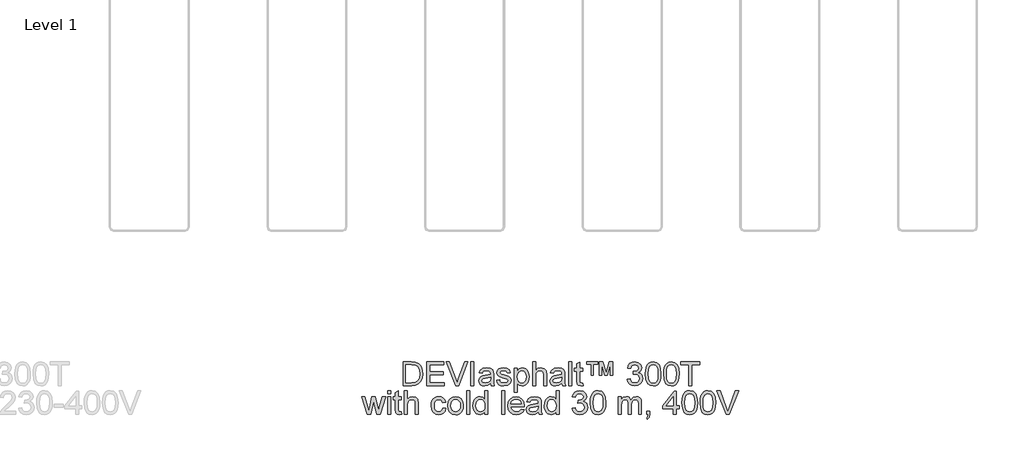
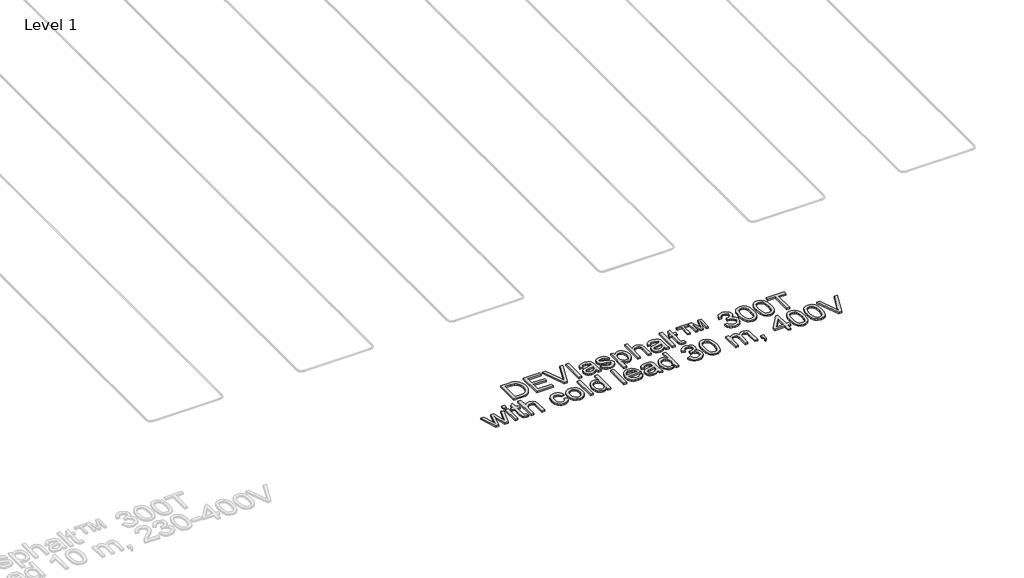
# One storey, part 19 of 26: 1 proxy.
"""IFC4 building model written with IfcOpenShell, lengths in millimetres."""

from ifc_helpers import new_model, si_unit, origin, origin_with_axes, place, context, project, spatial, polyline, outline, extrude, element, save

model = new_model("IFC4")

# Units and contexts
model_context = context("Model", 3, world=origin())
ifc_project = project(units=[si_unit("LENGTHUNIT", "METRE", prefix="MILLI")], contexts=[model_context])

# Site, building, storey
site = spatial("IfcSite", under=ifc_project)
building = spatial("IfcBuilding", under=site)
storey = spatial("IfcBuildingStorey", under=building, Name="Level 1", Elevation=0.0)

# Proxy
placement = place(None, origin())
element("IfcBuildingElementProxy", 1, Name="150mm", ObjectType="150mm", at=placement, inside=storey, context=model_context, shape_type="SweptSolid", body=[
    extrude(outline(polyline([(21271.9779866, -27720.7202), (21271.9779866, -27570.0357347), (21323.9597125, -27570.0357347), (21350.8518863, -27572.2062385), (21372.9983824, -27582.985181), (21383.4186399, -27594.4630992), (21390.8406592, -27608.7369206), (21395.2828343, -27625.5307337), (21396.7635593, -27644.568627), (21392.7536456, -27674.9740739), (21382.4529497, -27696.9182349), (21368.6941631, -27710.585051), (21350.6863394, -27718.145026), (21326.46131, -27720.7202), (21271.9779866, -27720.7202)]), holes=[polyline([(21290.8135447, -27701.8846418), (21324.1436535, -27701.8846418), (21348.387077, -27699.162315), (21362.3665928, -27691.4735813), (21373.8261169, -27672.7667819), (21377.9280012, -27644.2743214), (21375.9184458, -27623.746506), (21369.8897796, -27608.5897678), (21360.9824368, -27598.1787074), (21350.3368515, -27591.8879252), (21323.6286187, -27588.8712929), (21290.8135447, -27588.8712929), (21290.8135447, -27701.8846418)])]), origin_with_axes(), (0.0, 0.0, 1.0), 10.0),
    extrude(outline(polyline([(21422.6624518, -27720.7202), (21422.6624518, -27570.0357347), (21530.9669112, -27570.0357347), (21530.9669112, -27588.8712929), (21441.4980099, -27588.8712929), (21441.4980099, -27633.6057435), (21526.2580216, -27633.6057435), (21526.2580216, -27652.4413017), (21441.4980099, -27652.4413017), (21441.4980099, -27701.8846418), (21533.3213559, -27701.8846418), (21533.3213559, -27720.7202), (21422.6624518, -27720.7202)])), origin_with_axes(), (0.0, 0.0, 1.0), 10.0),
    extrude(outline(polyline([(21606.0884146, -27720.7202), (21546.1236494, -27570.0357347), (21566.2835827, -27570.0357347), (21606.4195084, -27678.5977115), (21614.5497005, -27703.0618642), (21622.569528, -27678.5977115), (21662.8158182, -27570.0357347), (21682.9757516, -27570.0357347), (21625.5493721, -27720.7202), (21606.0884146, -27720.7202)])), origin_with_axes(), (0.0, 0.0, 1.0), 10.0),
    extrude(outline(polyline([(21702.8413793, -27720.7202), (21702.8413793, -27570.0357347), (21721.6769375, -27570.0357347), (21721.6769375, -27720.7202), (21702.8413793, -27720.7202)])), origin_with_axes(), (0.0, 0.0, 1.0), 10.0),
    extrude(outline(polyline([(21827.6269521, -27706.5935313), (21809.361611, -27719.3590366), (21789.1832836, -27723.0746447), (21773.4425327, -27720.8397616), (21761.8312572, -27714.1351122), (21754.6713539, -27703.953978), (21752.2847195, -27691.2896403), (21755.889963, -27676.3904195), (21765.3629244, -27665.5746889), (21778.5514939, -27659.3942714), (21794.8486663, -27656.56158), (21827.5165875, -27650.0868569), (21827.6269521, -27645.8930021), (21826.330168, -27637.4868985), (21822.4398159, -27631.9870627), (21813.7394068, -27627.9035726), (21801.617695, -27626.5424092), (21782.5614077, -27630.1660468), (21773.4747224, -27643.0235226), (21754.6391642, -27640.6690778), (21762.7877504, -27622.274978), (21779.1952874, -27611.4960356), (21804.0457162, -27607.706851), (21826.872794, -27611.0545772), (21839.7670579, -27619.4606808), (21845.5428052, -27632.2445801), (21846.4625102, -27648.7256935), (21846.4625102, -27672.1597766), (21847.4190034, -27704.8828801), (21851.1713998, -27720.7202), (21832.3358416, -27720.7202), (21827.6269521, -27706.5935313)]), holes=[polyline([(21827.6269521, -27668.922415), (21797.2398993, -27674.6981624), (21781.0346974, -27677.7515829), (21773.6954516, -27682.7179899), (21771.1202776, -27689.9652652), (21776.730478, -27700.1555964), (21793.1931973, -27704.2390866), (21812.2494847, -27699.7325321), (21824.5367433, -27688.824831), (21827.5165875, -27674.256704), (21827.6269521, -27668.922415)])]), origin_with_axes(), (0.0, 0.0, 1.0), 10.0),
    extrude(outline(polyline([(21865.2980684, -27687.7579732), (21884.1336265, -27685.4035284), (21887.1042736, -27693.4601441), (21892.8524298, -27699.3830442), (21912.8284222, -27704.2390866), (21932.0318623, -27699.7877144), (21938.2858562, -27689.3398658), (21936.7131607, -27684.5390057), (21931.9950741, -27680.8785799), (21912.607693, -27675.5075028), (21884.2439911, -27666.2920588), (21871.864762, -27655.5315104), (21867.6525131, -27640.337984), (21871.0370275, -27626.3032859), (21880.2708656, -27615.5795257), (21892.2454245, -27610.0061135), (21908.4506264, -27607.706851), (21931.3696747, -27611.4040651), (21945.9378017, -27621.4104554), (21952.4125248, -27638.314633), (21933.5769667, -27640.6690778), (21926.4952383, -27630.2764114), (21909.9221544, -27626.5424092), (21891.8959366, -27630.1108645), (21886.4880713, -27638.4249976), (21888.7321515, -27643.9064394), (21895.7586976, -27648.0635059), (21911.9822936, -27652.0734197), (21939.6286255, -27660.9393757), (21952.4677071, -27670.9825542), (21957.1214144, -27687.353303), (21951.6583667, -27705.3795208), (21935.8946233, -27718.4577257), (21912.5709048, -27723.0746447), (21893.5789968, -27720.8489587), (21879.7190426, -27714.1719004), (21870.4668104, -27703.1170465), (21865.2980684, -27687.7579732)])), origin_with_axes(), (0.0, 0.0, 1.0), 10.0),
    extrude(outline(polyline([(21978.3114173, -27763.1002058), (21978.3114173, -27610.0612958), (21997.1469755, -27610.0612958), (21997.1469755, -27628.528972), (22010.1699981, -27612.9123813), (22027.7547575, -27607.706851), (22040.4926715, -27609.5278669), (22051.6302989, -27614.9909145), (22060.6985901, -27623.7649001), (22067.2284955, -27635.5187299), (22072.4892081, -27664.5446193), (22071.0038845, -27680.6532522), (22066.5479138, -27695.0604308), (22059.2638503, -27707.0349897), (22049.2942483, -27715.8457635), (22037.6829728, -27721.2674244), (22025.4738891, -27723.0746447), (22009.0847462, -27718.2369965), (21997.1469755, -27706.0049202), (21997.1469755, -27763.1002058), (21978.3114173, -27763.1002058)]), holes=[polyline([(21997.1469755, -27666.2736647), (21999.184122, -27683.1594483), (22005.2955616, -27694.9684603), (22014.3132691, -27701.92143), (22025.0692189, -27704.2390866), (22035.9999127, -27701.8386566), (22045.2475463, -27694.6373665), (22051.552124, -27682.3960931), (22053.6536499, -27664.8757131), (22051.6027078, -27648.0819), (22045.4498814, -27636.1073411), (22036.4459696, -27628.9336422), (22025.8417711, -27626.5424092), (22015.1961858, -27629.0853935), (22005.8473846, -27636.7143464), (21999.3220777, -27649.1901445), (21997.1469755, -27666.2736647)])]), origin_with_axes(), (0.0, 0.0, 1.0), 10.0),
    extrude(outline(polyline([(22093.679211, -27720.7202), (22093.679211, -27570.0357347), (22112.5147691, -27570.0357347), (22112.5147691, -27625.4387632), (22127.2024578, -27612.1398291), (22145.2930549, -27607.706851), (22166.4462696, -27612.5444993), (22179.2853513, -27625.9170098), (22183.1481122, -27650.6754681), (22183.1481122, -27720.7202), (22164.3125541, -27720.7202), (22164.3125541, -27652.6252427), (22162.8134349, -27640.8346247), (22158.3160775, -27632.7596149), (22151.0688022, -27628.0967106), (22141.3199294, -27626.5424092), (22125.8872797, -27630.7362639), (22115.5865838, -27642.1038176), (22112.5147691, -27661.9326571), (22112.5147691, -27720.7202), (22093.679211, -27720.7202)])), origin_with_axes(), (0.0, 0.0, 1.0), 10.0),
    extrude(outline(polyline([(22279.6803477, -27706.5935313), (22261.4150067, -27719.3590366), (22241.2366793, -27723.0746447), (22225.4959284, -27720.8397616), (22213.8846529, -27714.1351122), (22206.7247496, -27703.953978), (22204.3381151, -27691.2896403), (22207.9433587, -27676.3904195), (22217.4163201, -27665.5746889), (22230.6048896, -27659.3942714), (22246.902062, -27656.56158), (22279.5699831, -27650.0868569), (22279.6803477, -27645.8930021), (22278.3835637, -27637.4868985), (22274.4932116, -27631.9870627), (22265.7928024, -27627.9035726), (22253.6710907, -27626.5424092), (22234.6148033, -27630.1660468), (22225.5281181, -27643.0235226), (22206.6925599, -27640.6690778), (22214.8411461, -27622.274978), (22231.2486831, -27611.4960356), (22256.0991119, -27607.706851), (22278.9261897, -27611.0545772), (22291.8204536, -27619.4606808), (22297.5962009, -27632.2445801), (22298.5159059, -27648.7256935), (22298.5159059, -27672.1597766), (22299.4723991, -27704.8828801), (22303.2247954, -27720.7202), (22284.3892373, -27720.7202), (22279.6803477, -27706.5935313)]), holes=[polyline([(22279.6803477, -27668.922415), (22249.2932949, -27674.6981624), (22233.0880931, -27677.7515829), (22225.7488473, -27682.7179899), (22223.1736733, -27689.9652652), (22228.7838737, -27700.1555964), (22245.246593, -27704.2390866), (22264.3028803, -27699.7325321), (22276.590139, -27688.824831), (22279.5699831, -27674.256704), (22279.6803477, -27668.922415)])]), origin_with_axes(), (0.0, 0.0, 1.0), 10.0),
    extrude(outline(polyline([(22324.4147984, -27720.7202), (22324.4147984, -27570.0357347), (22343.2503565, -27570.0357347), (22343.2503565, -27720.7202), (22324.4147984, -27720.7202)])), origin_with_axes(), (0.0, 0.0, 1.0), 10.0),
    extrude(outline(polyline([(22411.5292548, -27705.0116388), (22413.8836996, -27721.272023), (22399.7938192, -27723.0746447), (22384.0116816, -27719.9476478), (22376.1390069, -27711.7438793), (22373.8581385, -27690.3699354), (22373.8581385, -27628.896854), (22359.7314699, -27628.896854), (22359.7314699, -27610.0612958), (22373.8581385, -27610.0612958), (22373.8581385, -27583.169122), (22392.6936967, -27572.0958739), (22392.6936967, -27610.0612958), (22411.5292548, -27610.0612958), (22411.5292548, -27628.896854), (22392.6936967, -27628.896854), (22392.6936967, -27689.8181124), (22393.6869781, -27699.530197), (22396.9059455, -27702.9698937), (22403.3254863, -27704.2390866), (22411.5292548, -27705.0116388)])), origin_with_axes(), (0.0, 0.0, 1.0), 10.0),
    extrude(outline(polyline([(22465.6814845, -27654.7957464), (22465.6814845, -27584.1624033), (22437.4281473, -27584.1624033), (22437.4281473, -27570.0357347), (22508.0614904, -27570.0357347), (22508.0614904, -27584.1624033), (22479.8081531, -27584.1624033), (22479.8081531, -27654.7957464), (22465.6814845, -27654.7957464)])), origin_with_axes(), (0.0, 0.0, 1.0), 10.0),
    extrude(outline(polyline([(22517.4792694, -27654.7957464), (22517.4792694, -27570.0357347), (22538.3749668, -27570.0357347), (22559.9328517, -27638.0939038), (22581.2332192, -27570.0357347), (22602.2392811, -27570.0357347), (22602.2392811, -27654.7957464), (22588.1126125, -27654.7957464), (22588.1126125, -27585.1924729), (22566.9226096, -27654.7957464), (22552.795941, -27654.7957464), (22531.605938, -27584.1624033), (22531.605938, -27654.7957464), (22517.4792694, -27654.7957464)])), origin_with_axes(), (0.0, 0.0, 1.0), 10.0),
    extrude(outline(polyline([(22694.0626271, -27680.6946389), (22712.8981853, -27678.3401941), (22717.1150326, -27690.1767973), (22723.2908516, -27698.1690337), (22731.7291449, -27702.7215733), (22742.7334151, -27704.2390866), (22755.6460731, -27702.1513563), (22765.6156752, -27695.8881653), (22771.9892307, -27686.5439626), (22774.1137493, -27675.2131972), (22772.0076248, -27664.4572473), (22765.6892516, -27655.7338455), (22756.1243197, -27649.9534997), (22744.2785195, -27648.0267177), (22731.0715558, -27650.0868569), (22733.1684832, -27631.2512987), (22736.1851156, -27631.4720279), (22757.5590595, -27626.0641626), (22764.6775761, -27619.2031634), (22767.050415, -27609.4358964), (22765.3305666, -27601.3011058), (22760.1710216, -27594.7022225), (22752.298347, -27590.3290253), (22742.4391095, -27588.8712929), (22732.5614779, -27590.3428209), (22724.4864681, -27594.7574048), (22718.5911591, -27602.1150447), (22715.25263, -27612.4157406), (22696.4170719, -27610.0612958), (22701.962893, -27593.1479211), (22711.8313275, -27580.5203716), (22725.3325967, -27572.6568939), (22741.7769219, -27570.0357347), (22764.4936351, -27575.2044768), (22780.3861373, -27589.3311454), (22785.8859731, -27608.3322504), (22780.6620488, -27625.6962806), (22765.211005, -27638.1674802), (22777.0016229, -27642.9315521), (22785.7388203, -27651.0433501), (22791.1466856, -27662.0614158), (22792.9493074, -27675.544291), (22789.3440639, -27693.9016025), (22778.5283332, -27709.2422817), (22762.2035697, -27719.616554), (22742.0712275, -27723.0746447), (22723.8610687, -27720.1223917), (22709.0354243, -27711.2656327), (22698.7255314, -27697.7183782), (22694.0626271, -27680.6946389)])), origin_with_axes(), (0.0, 0.0, 1.0), 10.0),
    extrude(outline(polyline([(22809.4304208, -27646.5919779), (22810.8145768, -27622.4727146), (22814.9670448, -27603.2370848), (22821.8464381, -27588.5907829), (22831.41137, -27578.2395032), (22843.7308183, -27572.0866769), (22858.873761, -27570.0357347), (22880.8731043, -27574.8917771), (22896.0666307, -27588.889687), (22904.8957986, -27611.1833359), (22908.3171011, -27646.5919779), (22906.9467407, -27670.5732855), (22902.8356594, -27689.7629301), (22895.9976528, -27704.4230276), (22886.4465165, -27714.8156939), (22874.099477, -27721.009907), (22858.873761, -27723.0746447), (22839.3024388, -27719.4877953), (22824.4400062, -27708.7272469), (22813.1828172, -27683.2422217), (22809.4304208, -27646.5919779)]), holes=[polyline([(22828.265979, -27646.5551897), (22830.4732709, -27676.1834859), (22837.0951468, -27693.3313854), (22846.9543843, -27701.5121613), (22858.873761, -27704.2390866), (22870.7931376, -27701.5029642), (22880.6523751, -27693.2945972), (22887.274251, -27676.1375007), (22889.481543, -27646.5551897), (22887.3478274, -27617.5936797), (22880.9466807, -27600.3124229), (22871.1058373, -27591.7315754), (22858.6530318, -27588.8712929), (22846.8624138, -27591.3912846), (22837.3894524, -27598.9512596), (22830.5468473, -27617.3085711), (22828.265979, -27646.5551897)])]), origin_with_axes(), (0.0, 0.0, 1.0), 10.0),
    extrude(outline(polyline([(22924.7982145, -27646.5919779), (22926.1823705, -27622.4727146), (22930.3348385, -27603.2370848), (22937.2142318, -27588.5907829), (22946.7791637, -27578.2395032), (22959.098612, -27572.0866769), (22974.2415546, -27570.0357347), (22996.240898, -27574.8917771), (23011.4344244, -27588.889687), (23020.2635922, -27611.1833359), (23023.6848948, -27646.5919779), (23022.3145344, -27670.5732855), (23018.2034531, -27689.7629301), (23011.3654465, -27704.4230276), (23001.8143102, -27714.8156939), (22989.4672707, -27721.009907), (22974.2415546, -27723.0746447), (22954.6702325, -27719.4877953), (22939.8077999, -27708.7272469), (22928.5506108, -27683.2422217), (22924.7982145, -27646.5919779)]), holes=[polyline([(22943.6337726, -27646.5551897), (22945.8410646, -27676.1834859), (22952.4629405, -27693.3313854), (22962.322178, -27701.5121613), (22974.2415546, -27704.2390866), (22986.1609313, -27701.5029642), (22996.0201688, -27693.2945972), (23002.6420447, -27676.1375007), (23004.8493366, -27646.5551897), (23002.7156211, -27617.5936797), (22996.3144744, -27600.3124229), (22986.473631, -27591.7315754), (22974.0208254, -27588.8712929), (22962.2302075, -27591.3912846), (22952.7572461, -27598.9512596), (22945.914641, -27617.3085711), (22943.6337726, -27646.5551897)])]), origin_with_axes(), (0.0, 0.0, 1.0), 10.0),
    extrude(outline(polyline([(23084.9004588, -27720.7202), (23084.9004588, -27588.8712929), (23035.4571186, -27588.8712929), (23035.4571186, -27570.0357347), (23153.1793571, -27570.0357347), (23153.1793571, -27588.8712929), (23103.7360169, -27588.8712929), (23103.7360169, -27720.7202), (23084.9004588, -27720.7202)])), origin_with_axes(), (0.0, 0.0, 1.0), 10.0),
    extrude(outline(polyline([(21044.2958197, -27903.6824267), (21010.6346172, -27793.0235226), (21030.2059393, -27793.0235226), (21049.2990149, -27857.5868127), (21055.0011858, -27880.6530138), (21059.6732871, -27858.4329413), (21074.8668135, -27793.0235226), (21097.3076152, -27793.0235226), (21112.4275653, -27858.2490003), (21116.5846318, -27878.3721455), (21122.5443201, -27857.1453543), (21141.6741839, -27793.0235226), (21161.3190824, -27793.0235226), (21127.4003625, -27903.6824267), (21104.628467, -27903.6824267), (21090.1707045, -27838.7880428), (21085.9768498, -27818.554533), (21067.3252326, -27903.6824267), (21044.2958197, -27903.6824267)])), origin_with_axes(), (0.0, 0.0, 1.0), 10.0),
    extrude(outline(polyline([(21174.2685286, -27771.8335197), (21174.2685286, -27752.9979615), (21193.1040868, -27752.9979615), (21193.1040868, -27771.8335197), (21174.2685286, -27771.8335197)])), origin_with_axes(), (0.0, 0.0, 1.0), 10.0),
    extrude(outline(polyline([(21174.2685286, -27903.6824267), (21174.2685286, -27793.0235226), (21193.1040868, -27793.0235226), (21193.1040868, -27903.6824267), (21174.2685286, -27903.6824267)])), origin_with_axes(), (0.0, 0.0, 1.0), 10.0),
    extrude(outline(polyline([(21261.3829851, -27887.9738655), (21263.7374299, -27904.2342497), (21249.6475495, -27906.0368715), (21233.8654119, -27902.9098745), (21225.9927372, -27894.706106), (21223.7118688, -27873.3321621), (21223.7118688, -27811.8590807), (21209.5852002, -27811.8590807), (21209.5852002, -27793.0235226), (21223.7118688, -27793.0235226), (21223.7118688, -27766.1313487), (21242.5474269, -27755.0581007), (21242.5474269, -27793.0235226), (21261.3829851, -27793.0235226), (21261.3829851, -27811.8590807), (21242.5474269, -27811.8590807), (21242.5474269, -27872.7803391), (21243.5407083, -27882.4924238), (21246.7596758, -27885.9321205), (21253.1792166, -27887.2013133), (21261.3829851, -27887.9738655)])), origin_with_axes(), (0.0, 0.0, 1.0), 10.0),
    extrude(outline(polyline([(21280.2185433, -27903.6824267), (21280.2185433, -27752.9979615), (21299.0541014, -27752.9979615), (21299.0541014, -27808.40099), (21313.7417901, -27795.1020558), (21331.8323872, -27790.6690778), (21352.9856019, -27795.506726), (21365.8246835, -27808.8792366), (21369.6874445, -27833.6376948), (21369.6874445, -27903.6824267), (21350.8518863, -27903.6824267), (21350.8518863, -27835.5874694), (21349.3527672, -27823.7968515), (21344.8554098, -27815.7218417), (21337.6081345, -27811.0589374), (21327.8592616, -27809.504636), (21312.4266119, -27813.6984907), (21302.1259161, -27825.0660444), (21299.0541014, -27844.8948839), (21299.0541014, -27903.6824267), (21280.2185433, -27903.6824267)])), origin_with_axes(), (0.0, 0.0, 1.0), 10.0),
    extrude(outline(polyline([(21525.0807992, -27863.6568657), (21543.9163574, -27866.0113104), (21538.6648419, -27882.7637368), (21528.7964074, -27895.4234759), (21515.2399559, -27903.3835226), (21498.9243894, -27906.0368715), (21478.8886162, -27902.3350589), (21463.2214418, -27891.2296212), (21453.1092854, -27873.208002), (21449.7385666, -27848.7576448), (21451.1779049, -27831.9960214), (21455.4959199, -27817.4692812), (21462.7615893, -27805.738444), (21473.043891, -27797.3645301), (21485.3449452, -27792.3429409), (21498.666872, -27790.6690778), (21514.5823668, -27792.9683403), (21527.3064853, -27799.8661277), (21536.4345573, -27810.994558), (21541.5619126, -27825.9857493), (21522.7263545, -27828.3401941), (21513.9891571, -27814.2319196), (21498.8140248, -27809.504636), (21486.6417293, -27811.8314896), (21476.9802284, -27818.8120504), (21470.6756507, -27830.8233976), (21468.5741248, -27848.2426101), (21470.6296654, -27865.8963473), (21476.7962874, -27877.9490812), (21486.2830443, -27884.8882553), (21498.29899, -27887.2013133), (21508.0524614, -27885.7573765), (21516.0492963, -27881.425566), (21521.8664303, -27874.0955173), (21525.0807992, -27863.6568657)])), origin_with_axes(), (0.0, 0.0, 1.0), 10.0),
    extrude(outline(polyline([(21555.6885812, -27848.3529747), (21559.7628743, -27821.672333), (21571.9857536, -27802.9195482), (21587.0873095, -27793.7316954), (21605.1687096, -27790.6690778), (21624.9561624, -27794.3984815), (21640.7612926, -27805.5866927), (21651.1217693, -27823.3507946), (21654.5752615, -27846.8078703), (21653.0485513, -27865.8365665), (21648.4684204, -27880.32192), (21640.9682262, -27891.1698404), (21630.681326, -27899.2862369), (21618.4630452, -27904.3492128), (21605.1687096, -27906.0368715), (21585.1421335, -27902.3212633), (21569.3553974, -27891.1744389), (21559.1052853, -27873.0378565), (21555.6885812, -27848.3529747)]), holes=[polyline([(21574.5241394, -27848.3161865), (21576.7038402, -27865.3629184), (21583.2429427, -27877.5076228), (21593.083786, -27884.7778907), (21605.1687096, -27887.2013133), (21617.1984508, -27884.7640951), (21627.0209001, -27877.4524405), (21633.5600026, -27865.1467877), (21635.7397034, -27847.7275753), (21633.546207, -27831.177484), (21626.9657178, -27819.1983265), (21617.129473, -27811.9280586), (21605.1687096, -27809.504636), (21593.083786, -27811.9188616), (21583.2429427, -27819.1615383), (21576.7038402, -27831.2786516), (21574.5241394, -27848.3161865)])]), origin_with_axes(), (0.0, 0.0, 1.0), 10.0),
    extrude(outline(polyline([(21675.7652645, -27903.6824267), (21675.7652645, -27752.9979615), (21694.6008226, -27752.9979615), (21694.6008226, -27903.6824267), (21675.7652645, -27903.6824267)])), origin_with_axes(), (0.0, 0.0, 1.0), 10.0),
    extrude(outline(polyline([(21791.1330582, -27903.6824267), (21791.1330582, -27885.9137264), (21778.6710556, -27901.0060852), (21761.4449811, -27906.0368715), (21749.2680871, -27904.2158556), (21738.1212626, -27898.752808), (21728.6850895, -27890.0294062), (21721.6401493, -27878.4273278), (21717.2531565, -27864.4156223), (21715.7908255, -27848.4633392), (21721.1802968, -27818.4809566), (21727.9125373, -27806.5891711), (21737.3303164, -27797.8427767), (21748.7208626, -27792.4625025), (21761.3714047, -27790.6690778), (21778.7354349, -27795.8010316), (21791.1330582, -27809.136754), (21791.1330582, -27752.9979615), (21809.9686163, -27752.9979615), (21809.9686163, -27903.6824267), (21791.1330582, -27903.6824267)]), holes=[polyline([(21734.6263837, -27848.3897629), (21736.7509022, -27865.4272978), (21743.1244578, -27877.544411), (21752.385887, -27884.7870877), (21763.1740265, -27887.2013133), (21773.9575675, -27884.8974523), (21782.984472, -27877.9858694), (21789.0959116, -27866.3378057), (21791.1330582, -27849.8245026), (21789.0591234, -27831.7706937), (21782.8373192, -27819.2535088), (21773.5804885, -27811.9418542), (21762.4014743, -27809.504636), (21751.5029702, -27811.8452852), (21742.5726348, -27818.8672327), (21736.6129465, -27830.9291637), (21734.6263837, -27848.3897629)])]), origin_with_axes(), (0.0, 0.0, 1.0), 10.0),
    extrude(outline(polyline([(21897.0830728, -27903.6824267), (21897.0830728, -27752.9979615), (21915.9186309, -27752.9979615), (21915.9186309, -27903.6824267), (21897.0830728, -27903.6824267)])), origin_with_axes(), (0.0, 0.0, 1.0), 10.0),
    extrude(outline(polyline([(22021.6479163, -27870.7202), (22040.1155925, -27873.0746447), (22033.4615269, -27886.9897812), (22022.8435328, -27897.3916446), (22008.5007335, -27903.8755648), (21990.6722523, -27906.0368715), (21968.5717415, -27902.3074678), (21951.5663962, -27891.1192566), (21940.7230744, -27873.1988049), (21937.1086338, -27849.2726796), (21940.7598626, -27824.5418125), (21951.713549, -27806.0465452), (21968.488968, -27794.5134447), (21989.6053946, -27790.6690778), (22010.064232, -27794.5042476), (22026.4119882, -27806.009757), (22037.1311498, -27824.4682361), (22040.7042037, -27849.162315), (22040.5938391, -27854.2390866), (21955.944192, -27854.2390866), (21959.2045462, -27868.338164), (21966.7783167, -27878.7032393), (21977.7090105, -27885.0767948), (21991.0401343, -27887.2013133), (22009.5078105, -27883.264976), (22021.6479163, -27870.7202)]), holes=[polyline([(21955.944192, -27835.4035284), (22021.8686455, -27835.4035284), (22019.3210627, -27825.4523205), (22014.3270646, -27818.3338038), (22003.3457871, -27811.7119279), (21989.5318182, -27809.504636), (21976.8352908, -27811.265871), (21966.3368584, -27816.5495762), (21959.0389993, -27824.7855343), (21955.944192, -27835.4035284)])]), origin_with_axes(), (0.0, 0.0, 1.0), 10.0),
    extrude(outline(polyline([(22130.1731049, -27889.5557581), (22111.9077638, -27902.3212633), (22091.7294364, -27906.0368715), (22075.9886855, -27903.8019884), (22064.3774101, -27897.097339), (22057.2175067, -27886.9162048), (22054.8308723, -27874.2518671), (22058.4361158, -27859.3526463), (22067.9090772, -27848.5369156), (22081.0976468, -27842.3564981), (22097.3948191, -27839.5238068), (22130.0627403, -27833.0490837), (22130.1731049, -27828.8552289), (22128.8763209, -27820.4491253), (22124.9859688, -27814.9492895), (22116.2855596, -27810.8657993), (22104.1638478, -27809.504636), (22085.1075605, -27813.1282736), (22076.0208752, -27825.9857493), (22057.1853171, -27823.6313046), (22065.3339033, -27805.2372048), (22081.7414402, -27794.4582624), (22106.591869, -27790.6690778), (22129.4189468, -27794.016804), (22142.3132107, -27802.4229076), (22148.0889581, -27815.2068069), (22149.0086631, -27831.6879203), (22149.0086631, -27855.1220034), (22149.9651562, -27887.8451068), (22153.7175526, -27903.6824267), (22134.8819944, -27903.6824267), (22130.1731049, -27889.5557581)]), holes=[polyline([(22130.1731049, -27851.8846418), (22099.7860521, -27857.6603891), (22083.5808502, -27860.7138097), (22076.2416044, -27865.6802166), (22073.6664304, -27872.9274919), (22079.2766309, -27883.1178232), (22095.7393502, -27887.2013133), (22114.7956375, -27882.6947589), (22127.0828961, -27871.7870577), (22130.0627403, -27857.2189307), (22130.1731049, -27851.8846418)])]), origin_with_axes(), (0.0, 0.0, 1.0), 10.0),
    extrude(outline(polyline([(22243.1864538, -27903.6824267), (22243.1864538, -27885.9137264), (22230.7244512, -27901.0060852), (22213.4983768, -27906.0368715), (22201.3214828, -27904.2158556), (22190.1746583, -27898.752808), (22180.7384851, -27890.0294062), (22173.6935449, -27878.4273278), (22169.3065521, -27864.4156223), (22167.8442212, -27848.4633392), (22173.2336924, -27818.4809566), (22179.965933, -27806.5891711), (22189.383712, -27797.8427767), (22200.7742583, -27792.4625025), (22213.4248004, -27790.6690778), (22230.7888306, -27795.8010316), (22243.1864538, -27809.136754), (22243.1864538, -27752.9979615), (22262.022012, -27752.9979615), (22262.022012, -27903.6824267), (22243.1864538, -27903.6824267)]), holes=[polyline([(22186.6797794, -27848.3897629), (22188.8042979, -27865.4272978), (22195.1778535, -27877.544411), (22204.4392827, -27884.7870877), (22215.2274222, -27887.2013133), (22226.0109632, -27884.8974523), (22235.0378676, -27877.9858694), (22241.1493073, -27866.3378057), (22243.1864538, -27849.8245026), (22241.1125191, -27831.7706937), (22234.8907148, -27819.2535088), (22225.6338841, -27811.9418542), (22214.45487, -27809.504636), (22203.5563659, -27811.8452852), (22194.6260305, -27818.8672327), (22188.6663421, -27830.9291637), (22186.6797794, -27848.3897629)])]), origin_with_axes(), (0.0, 0.0, 1.0), 10.0),
    extrude(outline(polyline([(22344.4275789, -27863.6568657), (22363.2631371, -27861.3024209), (22367.4799844, -27873.1390241), (22373.6558034, -27881.1312604), (22382.0940967, -27885.6838001), (22393.0983669, -27887.2013133), (22406.0110249, -27885.113583), (22415.980627, -27878.8503921), (22422.3541825, -27869.5061894), (22424.478701, -27858.1754239), (22422.3725766, -27847.4194741), (22416.0542034, -27838.6960723), (22406.4892715, -27832.9157264), (22394.6434712, -27830.9889445), (22381.4365076, -27833.0490837), (22383.533435, -27814.2135255), (22386.5500673, -27814.4342547), (22407.9240113, -27809.0263894), (22415.0425279, -27802.1653902), (22417.4153667, -27792.3981232), (22415.6955184, -27784.2633326), (22410.5359734, -27777.6644493), (22402.6632987, -27773.2912521), (22392.8040613, -27771.8335197), (22382.9264297, -27773.3050476), (22374.8514199, -27777.7196316), (22368.9561109, -27785.0772715), (22365.6175818, -27795.3779673), (22346.7820237, -27793.0235226), (22352.3278447, -27776.1101478), (22362.1962793, -27763.4825984), (22375.6975485, -27755.6191207), (22392.1418737, -27752.9979615), (22414.8585869, -27758.1667035), (22430.7510891, -27772.2933721), (22436.2509249, -27791.2944772), (22431.0270006, -27808.6585074), (22415.5759568, -27821.129707), (22427.3665747, -27825.8937788), (22436.1037721, -27834.0055768), (22441.5116374, -27845.0236426), (22443.3142592, -27858.5065177), (22439.7090156, -27876.8638293), (22428.893285, -27892.2045085), (22412.5685215, -27902.5787807), (22392.4361793, -27906.0368715), (22374.2260205, -27903.0846185), (22359.4003761, -27894.2278594), (22349.0904832, -27880.680605), (22344.4275789, -27863.6568657)])), origin_with_axes(), (0.0, 0.0, 1.0), 10.0),
    extrude(outline(polyline([(22459.7953726, -27829.5542047), (22461.1795286, -27805.4349414), (22465.3319966, -27786.1993116), (22472.2113899, -27771.5530096), (22481.7763218, -27761.20173), (22494.0957701, -27755.0489036), (22509.2387127, -27752.9979615), (22531.238056, -27757.8540038), (22546.4315825, -27771.8519138), (22555.2607503, -27794.1455627), (22558.6820529, -27829.5542047), (22557.3116925, -27853.5355123), (22553.2006112, -27872.7251568), (22546.3626046, -27887.3852543), (22536.8114683, -27897.7779207), (22524.4644288, -27903.9721338), (22509.2387127, -27906.0368715), (22489.6673906, -27902.450022), (22474.804958, -27891.6894737), (22463.5477689, -27866.2044485), (22459.7953726, -27829.5542047)]), holes=[polyline([(22478.6309307, -27829.5174165), (22480.8382227, -27859.1457127), (22487.4600986, -27876.2936122), (22497.3193361, -27884.4743881), (22509.2387127, -27887.2013133), (22521.1580894, -27884.465191), (22531.0173269, -27876.256824), (22537.6392028, -27859.0997274), (22539.8464947, -27829.5174165), (22537.7127792, -27800.5559064), (22531.3116324, -27783.2746497), (22521.4707891, -27774.6938022), (22509.0179835, -27771.8335197), (22497.2273656, -27774.3535113), (22487.7544042, -27781.9134863), (22480.9117991, -27800.2707979), (22478.6309307, -27829.5174165)])]), origin_with_axes(), (0.0, 0.0, 1.0), 10.0),
    extrude(outline(polyline([(22638.733175, -27903.6824267), (22638.733175, -27793.0235226), (22657.5687332, -27793.0235226), (22657.5687332, -27811.2336813), (22670.5181794, -27796.3160664), (22688.9490674, -27790.6690778), (22699.4245072, -27792.1084161), (22707.8214137, -27796.426431), (22718.195686, -27812.5580565), (22732.8925717, -27796.1413225), (22751.4522184, -27790.6690778), (22765.6110767, -27792.9453477), (22776.0819179, -27799.7741572), (22782.5520425, -27811.3394474), (22784.7087507, -27827.8251593), (22784.7087507, -27903.6824267), (22765.8731926, -27903.6824267), (22765.8731926, -27835.9185632), (22764.1257531, -27820.1916079), (22757.7981828, -27812.4476919), (22747.0376344, -27809.504636), (22736.8335076, -27811.3900312), (22728.514776, -27817.0462169), (22722.9827505, -27826.8594691), (22721.138742, -27841.2160639), (22721.138742, -27903.6824267), (22702.3031838, -27903.6824267), (22702.3031838, -27833.8216358), (22697.9437822, -27815.5746889), (22692.1910275, -27811.0221492), (22683.6515667, -27809.504636), (22669.708839, -27813.5513379), (22660.4382128, -27825.3971382), (22657.5687332, -27847.8747281), (22657.5687332, -27903.6824267), (22638.733175, -27903.6824267)])), origin_with_axes(), (0.0, 0.0, 1.0), 10.0),
    extrude(outline(polyline([(22817.6709775, -27903.6824267), (22817.6709775, -27884.8468686), (22836.5065356, -27884.8468686), (22836.5065356, -27903.6824267), (22833.1220213, -27922.9410492), (22822.379867, -27934.2902087), (22817.6709775, -27927.2268744), (22824.587159, -27919.0966823), (22827.0519684, -27903.6824267), (22817.6709775, -27903.6824267)])), origin_with_axes(), (0.0, 0.0, 1.0), 10.0),
    extrude(outline(polyline([(22987.1910009, -27903.6824267), (22987.1910009, -27868.3657552), (22918.9121026, -27868.3657552), (22918.9121026, -27849.530197), (22991.8998904, -27755.3524063), (23006.026559, -27755.3524063), (23006.026559, -27849.530197), (23024.8621172, -27849.530197), (23024.8621172, -27868.3657552), (23006.026559, -27868.3657552), (23006.026559, -27903.6824267), (22987.1910009, -27903.6824267)]), holes=[polyline([(22987.1910009, -27849.530197), (22987.1910009, -27791.3312654), (22942.0886683, -27849.530197), (22987.1910009, -27849.530197)])]), origin_with_axes(), (0.0, 0.0, 1.0), 10.0),
    extrude(outline(polyline([(23041.3432306, -27829.5542047), (23042.7273866, -27805.4349414), (23046.8798546, -27786.1993116), (23053.7592479, -27771.5530096), (23063.3241798, -27761.20173), (23075.6436281, -27755.0489036), (23090.7865707, -27752.9979615), (23112.785914, -27757.8540038), (23127.9794404, -27771.8519138), (23136.8086083, -27794.1455627), (23140.2299109, -27829.5542047), (23138.8595504, -27853.5355123), (23134.7484691, -27872.7251568), (23127.9104626, -27887.3852543), (23118.3593263, -27897.7779207), (23106.0122868, -27903.9721338), (23090.7865707, -27906.0368715), (23071.2152486, -27902.450022), (23056.352816, -27891.6894737), (23045.0956269, -27866.2044485), (23041.3432306, -27829.5542047)]), holes=[polyline([(23060.1787887, -27829.5174165), (23062.3860807, -27859.1457127), (23069.0079566, -27876.2936122), (23078.8671941, -27884.4743881), (23090.7865707, -27887.2013133), (23102.7059474, -27884.465191), (23112.5651848, -27876.256824), (23119.1870607, -27859.0997274), (23121.3943527, -27829.5174165), (23119.2606371, -27800.5559064), (23112.8594904, -27783.2746497), (23103.0186471, -27774.6938022), (23090.5658415, -27771.8335197), (23078.7752236, -27774.3535113), (23069.3022622, -27781.9134863), (23062.4596571, -27800.2707979), (23060.1787887, -27829.5174165)])]), origin_with_axes(), (0.0, 0.0, 1.0), 10.0),
    extrude(outline(polyline([(23156.7110242, -27829.5542047), (23158.0951803, -27805.4349414), (23162.2476483, -27786.1993116), (23169.1270416, -27771.5530096), (23178.6919735, -27761.20173), (23191.0114218, -27755.0489036), (23206.1543644, -27752.9979615), (23228.1537077, -27757.8540038), (23243.3472341, -27771.8519138), (23252.176402, -27794.1455627), (23255.5977046, -27829.5542047), (23254.2273441, -27853.5355123), (23250.1162628, -27872.7251568), (23243.2782562, -27887.3852543), (23233.7271199, -27897.7779207), (23221.3800805, -27903.9721338), (23206.1543644, -27906.0368715), (23186.5830423, -27902.450022), (23171.7206097, -27891.6894737), (23160.4634206, -27866.2044485), (23156.7110242, -27829.5542047)]), holes=[polyline([(23175.5465824, -27829.5174165), (23177.7538744, -27859.1457127), (23184.3757503, -27876.2936122), (23194.2349878, -27884.4743881), (23206.1543644, -27887.2013133), (23218.073741, -27884.465191), (23227.9329785, -27876.256824), (23234.5548544, -27859.0997274), (23236.7621464, -27829.5174165), (23234.6284308, -27800.5559064), (23228.2272841, -27783.2746497), (23218.3864407, -27774.6938022), (23205.9336352, -27771.8335197), (23194.1430173, -27774.3535113), (23184.6700559, -27781.9134863), (23177.8274508, -27800.2707979), (23175.5465824, -27829.5174165)])]), origin_with_axes(), (0.0, 0.0, 1.0), 10.0),
    extrude(outline(polyline([(23323.6558737, -27903.6824267), (23263.6911084, -27752.9979615), (23283.8510418, -27752.9979615), (23323.9869675, -27861.5599383), (23332.1171595, -27886.024091), (23340.136987, -27861.5599383), (23380.3832773, -27752.9979615), (23400.5432107, -27752.9979615), (23343.1168312, -27903.6824267), (23323.6558737, -27903.6824267)])), origin_with_axes(), (0.0, 0.0, 1.0), 10.0),
])

save(model, "model.ifc")
